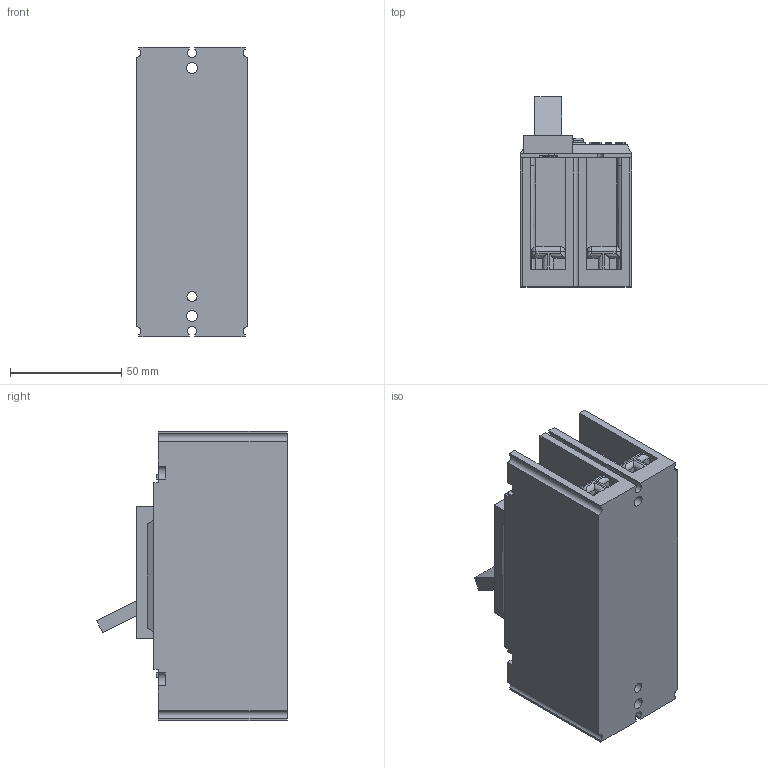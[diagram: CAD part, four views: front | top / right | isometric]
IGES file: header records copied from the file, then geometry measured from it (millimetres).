
Start section:  PTC IGES file: 15-metasol-mccb-100af-2p.igs
Global section: file name: 15-metasol-mccb-100af-2p.igs; native system: Pro/ENGINEER by Parametric Technology Corporation; preprocessor: 2010280; author: mgkimb; organization: Unknown; date: 20131029.143127; units: millimetre
Bounding box: 50 x 85.7 x 130 mm (x, y, z)
Surface area: 51697.5 mm2 (no closed solid volume)
Topology: 0 solids, 0 shells, 695 faces, 3944 edges, 3988 vertices
Faces by surface type: bspline 529, revolution 166
